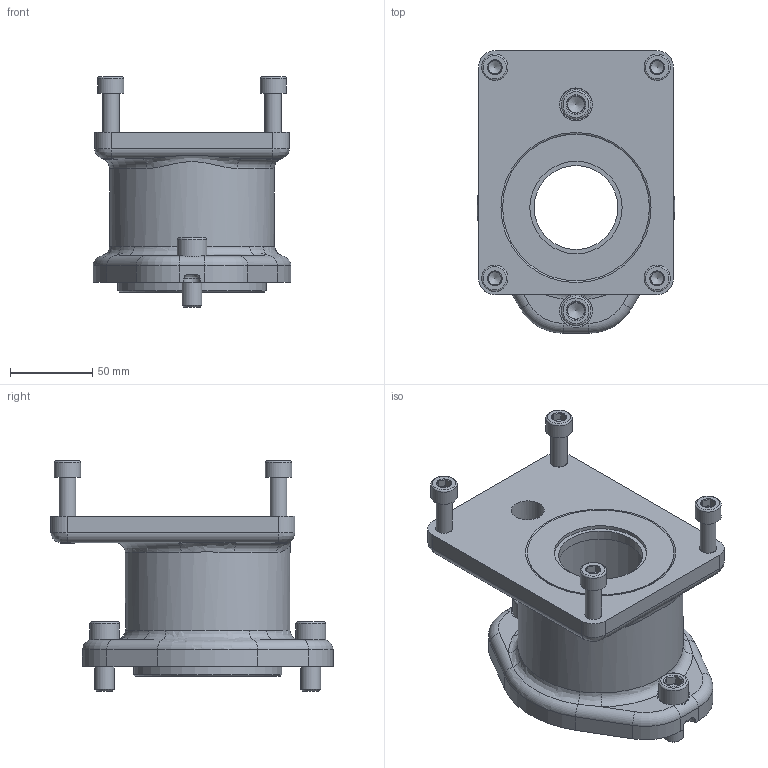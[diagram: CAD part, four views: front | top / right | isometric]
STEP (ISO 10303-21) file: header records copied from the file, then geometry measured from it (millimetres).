
FILE_DESCRIPTION(/* description */ (''),/* implementation_level */ '2;1');
FILE_NAME(/* name */ '3000022300_Semplifica_1.stp',/* time_stamp */ '2023-03-23T11:19:18+01:00',/* author */ ('marcop'),/* organization */ (''),/* preprocessor_version */ 'ST-DEVELOPER v19.2',/* originating_system */ 'Autodesk Inventor 2023',/* authorisation */ '');
FILE_SCHEMA (('AUTOMOTIVE_DESIGN { 1 0 10303 214 3 1 1 }'));
Length unit declared in the file: inch
Products named in the file (1): 3000022300_Semplifica_1
Bounding box: 119.67 x 171.14 x 139.5 mm (x, y, z)
Volume: 545846.1 mm3; surface area: 111558 mm2
Topology: 1 solids, 1 shells, 246 faces, 618 edges, 393 vertices
Faces by surface type: plane 119, cone 47, cylinder 47, torus 18, bspline 15
Full cylindrical faces by diameter (mm): 10 x4, 12 x2, 13 x2, 16 x4, 18 x2, 20 x3, 50.9 x1, 56 x1, 80 x1, 89 x1, 90 x1, 99 x1, 100 x1, 106 x1
Entity records: 8152 total; most frequent: CARTESIAN_POINT 2097, ORIENTED_EDGE 1224, DIRECTION 1199, EDGE_CURVE 612, AXIS2_PLACEMENT_3D 466, VERTEX_POINT 393, EDGE_LOOP 275, LINE 267
